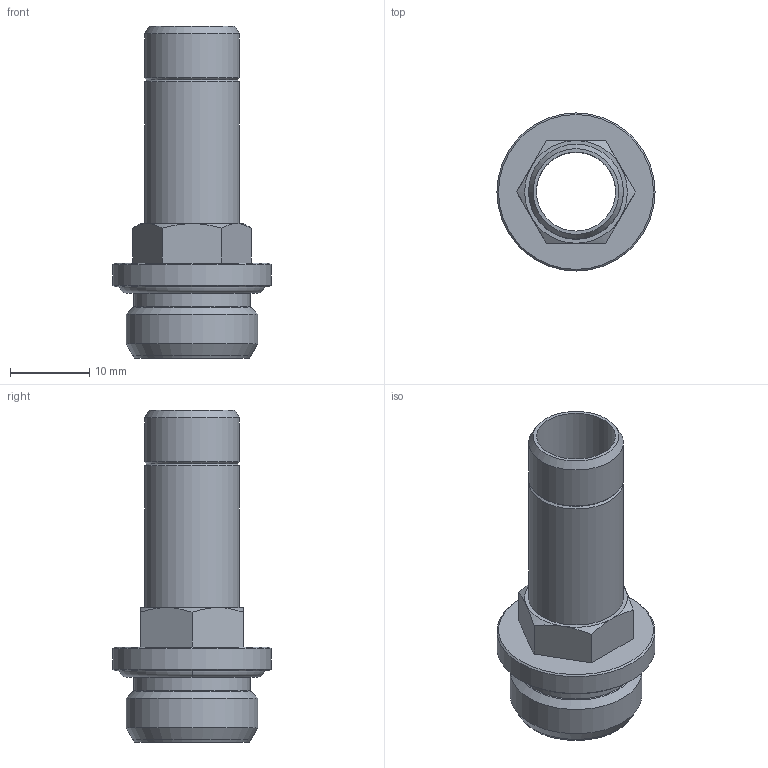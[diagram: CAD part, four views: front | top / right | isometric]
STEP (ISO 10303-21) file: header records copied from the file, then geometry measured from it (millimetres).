
FILE_DESCRIPTION(('Bauteilbeschreibung','HiCAD-Model','HiCAD-STEP-TRANSLATION','Bauteilbeschreibung'),'2;1');
FILE_NAME('B:/ABGLEICH/ZEICHNUNGEN/STEP FÜR INTERNET/STEP/IPSO 06/200614_IPSO_06_12_3-8.STP','2012-03-02T10:12:12+00:00',('Konstrukteur'),('Konstrukteur Firma GmbH'),' HiCAD neXt 2008, Step 3.1.1401.2J ','HiCAD neXt 2008','confidential');
FILE_SCHEMA(('AUTOMOTIVE_DESIGN { 1 2 10303 214 0 1 1 1 }'));
Length unit declared in the file: millimetre
Products named in the file (5): A00614_IPSO_06_12_3_8; A00614; A006140; G 3_8; OR 14X1_78
Assembly tree (4 placements, depth 3):
  A00614_IPSO_06_12_3_8
    A00614
    A006140
      G 3_8
    OR 14X1_78
Bounding box: 20 x 20 x 42 mm (x, y, z)
Volume: 2823.4 mm3; surface area: 4530 mm2
Topology: 3 solids, 3 shells, 45 faces, 98 edges, 59 vertices
Faces by surface type: cone 18, plane 12, cylinder 9, torus 6
Full cylindrical faces by diameter (mm): 10 x1, 11 x1, 12 x2, 14.75 x1, 14.95 x2, 16.662 x1, 20 x1
Entity records: 1444 total; most frequent: DIRECTION 202, CARTESIAN_POINT 193, ORIENTED_EDGE 132, AXIS2_PLACEMENT_3D 95, EDGE_LOOP 74, EDGE_CURVE 66, COLOUR_RGB 61, PRESENTATION_STYLE_ASSIGNMENT 61
